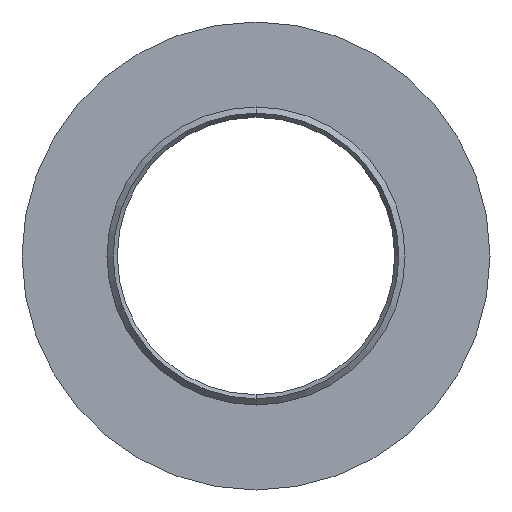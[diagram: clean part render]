
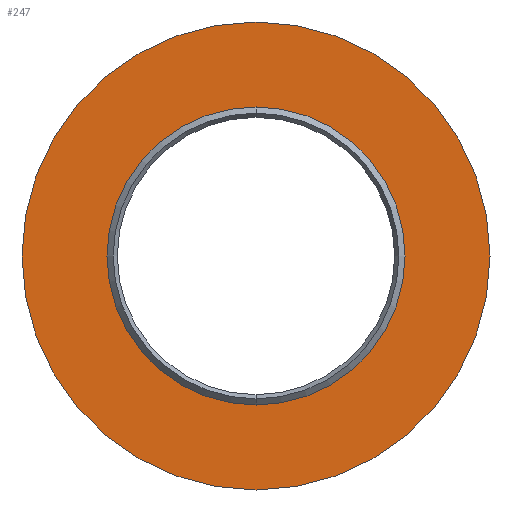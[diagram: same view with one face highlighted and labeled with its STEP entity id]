
A CAD part, front view. The second image highlights one B-rep face of the part: STEP entity #247.
In plain terms, the highlighted planar face has unit normal (0, -1, 0).
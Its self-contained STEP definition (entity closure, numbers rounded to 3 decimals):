
#33 = DIRECTION ( 'NONE',  ( 0., 0., 1. ) ) ;
#82 = DIRECTION ( 'NONE',  ( 0., 0., -1. ) ) ;
#104 = EDGE_CURVE ( 'NONE', #470, #144, #245, .T. ) ;
#111 = ORIENTED_EDGE ( 'NONE', *, *, #361, .T. ) ;
#113 = CARTESIAN_POINT ( 'NONE',  ( 0., -6., 0. ) ) ;
#115 = DIRECTION ( 'NONE',  ( 0., 1., 0. ) ) ;
#126 = CIRCLE ( 'NONE', #302, 13.5 ) ;
#129 = ORIENTED_EDGE ( 'NONE', *, *, #448, .T. ) ;
#133 = EDGE_LOOP ( 'NONE', ( #486, #111 ) ) ;
#135 = AXIS2_PLACEMENT_3D ( 'NONE', #444, #478, #321 ) ;
#144 = VERTEX_POINT ( 'NONE', #191 ) ;
#150 = ORIENTED_EDGE ( 'NONE', *, *, #104, .T. ) ;
#151 = DIRECTION ( 'NONE',  ( 0., 0., 1. ) ) ;
#155 = CARTESIAN_POINT ( 'NONE',  ( 0., -6., 0. ) ) ;
#163 = PLANE ( 'NONE',  #309 ) ;
#186 = EDGE_CURVE ( 'NONE', #371, #436, #226, .T. ) ;
#190 = CARTESIAN_POINT ( 'NONE',  ( 0., -6., 8.6 ) ) ;
#191 = CARTESIAN_POINT ( 'NONE',  ( 0., -6., 13.5 ) ) ;
#193 = DIRECTION ( 'NONE',  ( 0., 1., 0. ) ) ;
#200 = DIRECTION ( 'NONE',  ( 0., 0., -1. ) ) ;
#214 = FACE_BOUND ( 'NONE', #133, .T. ) ;
#217 = AXIS2_PLACEMENT_3D ( 'NONE', #113, #193, #151 ) ;
#226 = CIRCLE ( 'NONE', #217, 8.6 ) ;
#245 = CIRCLE ( 'NONE', #423, 13.5 ) ;
#247 = ADVANCED_FACE ( 'NONE', ( #214, #394 ), #163, .F. ) ;
#291 = CARTESIAN_POINT ( 'NONE',  ( -8.1, -6., 0. ) ) ;
#302 = AXIS2_PLACEMENT_3D ( 'NONE', #155, #413, #200 ) ;
#309 = AXIS2_PLACEMENT_3D ( 'NONE', #291, #115, #33 ) ;
#321 = DIRECTION ( 'NONE',  ( 0., 0., 1. ) ) ;
#336 = CARTESIAN_POINT ( 'NONE',  ( 0., -6., 0. ) ) ;
#342 = DIRECTION ( 'NONE',  ( 0., -1., 0. ) ) ;
#349 = CIRCLE ( 'NONE', #135, 8.6 ) ;
#361 = EDGE_CURVE ( 'NONE', #436, #371, #349, .T. ) ;
#367 = CARTESIAN_POINT ( 'NONE',  ( 0., -6., -8.6 ) ) ;
#368 = CARTESIAN_POINT ( 'NONE',  ( 0., -6., -13.5 ) ) ;
#371 = VERTEX_POINT ( 'NONE', #190 ) ;
#394 = FACE_OUTER_BOUND ( 'NONE', #483, .T. ) ;
#413 = DIRECTION ( 'NONE',  ( 0., -1., 0. ) ) ;
#423 = AXIS2_PLACEMENT_3D ( 'NONE', #336, #342, #82 ) ;
#436 = VERTEX_POINT ( 'NONE', #367 ) ;
#444 = CARTESIAN_POINT ( 'NONE',  ( 0., -6., 0. ) ) ;
#448 = EDGE_CURVE ( 'NONE', #144, #470, #126, .T. ) ;
#470 = VERTEX_POINT ( 'NONE', #368 ) ;
#478 = DIRECTION ( 'NONE',  ( 0., 1., 0. ) ) ;
#483 = EDGE_LOOP ( 'NONE', ( #150, #129 ) ) ;
#486 = ORIENTED_EDGE ( 'NONE', *, *, #186, .T. ) ;
